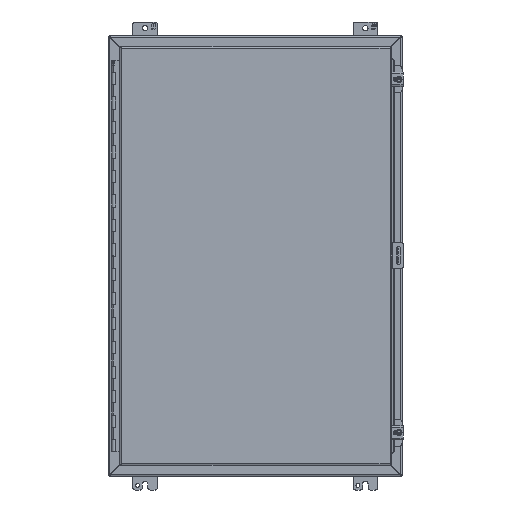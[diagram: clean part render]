
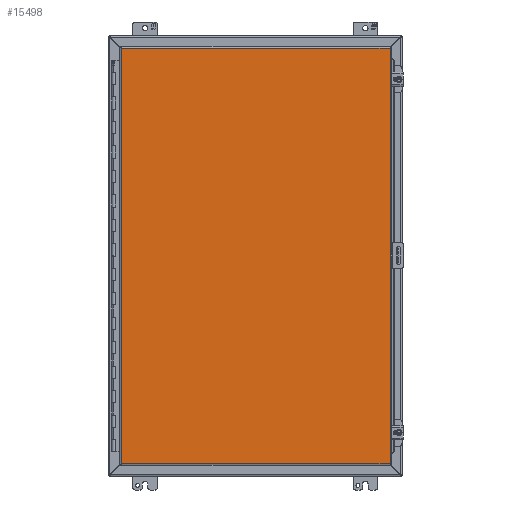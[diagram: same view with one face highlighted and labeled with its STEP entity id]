
A CAD part, front view. The second image highlights one B-rep face of the part: STEP entity #15498.
In plain terms, the highlighted planar face has unit normal (0, -1, 0).
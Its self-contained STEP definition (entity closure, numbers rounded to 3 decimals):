
#1431=LINE('',#24107,#2978);
#1432=LINE('',#24110,#2979);
#1433=LINE('',#24112,#2980);
#1434=LINE('',#24114,#2981);
#2978=VECTOR('',#19542,1000.);
#2979=VECTOR('',#19543,1000.);
#2980=VECTOR('',#19544,1000.);
#2981=VECTOR('',#19545,1000.);
#5453=ORIENTED_EDGE('',*,*,#9342,.T.);
#5454=ORIENTED_EDGE('',*,*,#9343,.T.);
#5455=ORIENTED_EDGE('',*,*,#9344,.T.);
#5456=ORIENTED_EDGE('',*,*,#9345,.T.);
#9342=EDGE_CURVE('',#11406,#11407,#1431,.T.);
#9343=EDGE_CURVE('',#11407,#11408,#1432,.T.);
#9344=EDGE_CURVE('',#11408,#11409,#1433,.T.);
#9345=EDGE_CURVE('',#11409,#11406,#1434,.T.);
#11406=VERTEX_POINT('',#24108);
#11407=VERTEX_POINT('',#24109);
#11408=VERTEX_POINT('',#24111);
#11409=VERTEX_POINT('',#24113);
#12992=EDGE_LOOP('',(#5453,#5454,#5455,#5456));
#13981=FACE_BOUND('',#12992,.T.);
#14836=PLANE('',#17234);
#15498=ADVANCED_FACE('',(#13981),#14836,.T.);
#17234=AXIS2_PLACEMENT_3D('',#24106,#19540,#19541);
#19540=DIRECTION('',(0.,-1.,0.));
#19541=DIRECTION('',(0.,0.,-1.));
#19542=DIRECTION('',(0.,0.,-1.));
#19543=DIRECTION('',(1.,0.,0.));
#19544=DIRECTION('',(0.,0.,1.));
#19545=DIRECTION('',(-1.,0.,0.));
#24106=CARTESIAN_POINT('',(-279.044,0.,-431.66));
#24107=CARTESIAN_POINT('',(-279.044,0.,431.66));
#24108=CARTESIAN_POINT('',(-279.044,0.,431.66));
#24109=CARTESIAN_POINT('',(-279.044,0.,-431.66));
#24110=CARTESIAN_POINT('',(-279.044,0.,-431.66));
#24111=CARTESIAN_POINT('',(279.044,0.,-431.66));
#24112=CARTESIAN_POINT('',(279.044,0.,-431.66));
#24113=CARTESIAN_POINT('',(279.044,0.,431.66));
#24114=CARTESIAN_POINT('',(279.044,0.,431.66));
